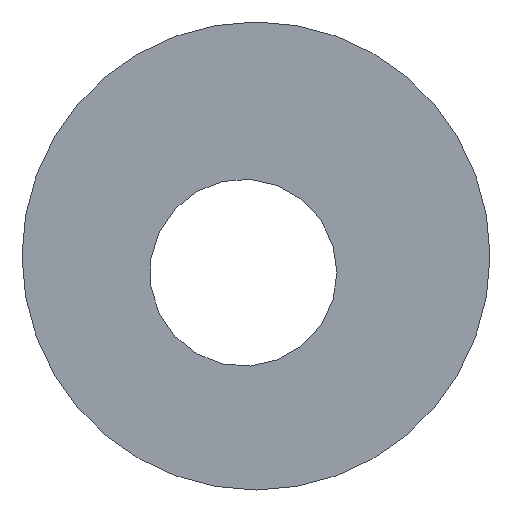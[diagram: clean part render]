
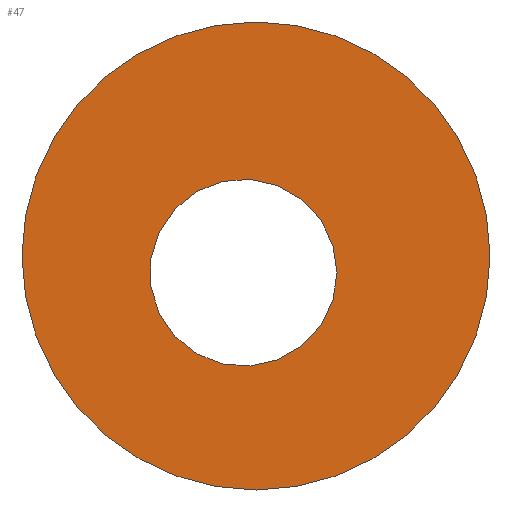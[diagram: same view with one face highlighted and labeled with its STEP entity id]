
A CAD part, left-side view. The second image highlights one B-rep face of the part: STEP entity #47.
In plain terms, the highlighted planar face has unit normal (1, 0, 0).
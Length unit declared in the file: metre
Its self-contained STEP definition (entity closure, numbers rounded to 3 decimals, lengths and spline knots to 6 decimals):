
#12=PLANE('',#59);
#17=ORIENTED_EDGE('',*,*,#19,.T.);
#18=ORIENTED_EDGE('',*,*,#21,.F.);
#19=EDGE_CURVE('NONE',#23,#23,#27,.T.);
#21=EDGE_CURVE('NONE',#25,#25,#29,.F.);
#23=VERTEX_POINT('',#79);
#25=VERTEX_POINT('',#84);
#27=CIRCLE('',#54,0.000508);
#29=CIRCLE('',#57,0.000203);
#35=EDGE_LOOP('',(#17));
#36=EDGE_LOOP('',(#18));
#41=FACE_BOUND('',#35,.T.);
#42=FACE_BOUND('',#36,.T.);
#47=ADVANCED_FACE('NONE',(#41,#42),#12,.T.);
#54=AXIS2_PLACEMENT_3D('',#78,#64,#65);
#57=AXIS2_PLACEMENT_3D('',#83,#70,#71);
#59=AXIS2_PLACEMENT_3D('',#87,#74,#75);
#64=DIRECTION('',(1.,0.,0.));
#65=DIRECTION('',(0.,0.,1.));
#70=DIRECTION('',(-1.,0.,0.));
#71=DIRECTION('',(0.,-1.,0.));
#74=DIRECTION('',(1.,0.,0.));
#75=DIRECTION('',(0.,-0.799,-0.602));
#78=CARTESIAN_POINT('',(0.176699,-0.059016,0.000295));
#79=CARTESIAN_POINT('',(0.176699,-0.059016,0.000803));
#83=CARTESIAN_POINT('',(0.176699,-0.058989,0.000259));
#84=CARTESIAN_POINT('',(0.176699,-0.059192,0.000259));
#87=CARTESIAN_POINT('',(0.176699,-0.059016,0.000295));
